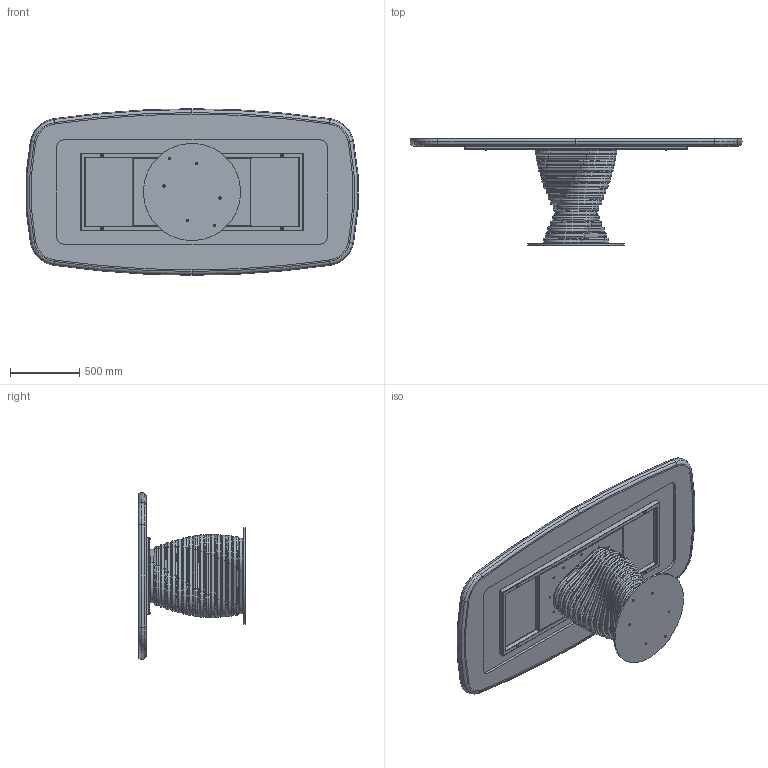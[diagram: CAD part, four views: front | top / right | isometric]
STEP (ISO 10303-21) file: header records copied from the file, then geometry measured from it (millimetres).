
FILE_DESCRIPTION (( 'STEP AP203' ), '1' );
FILE_NAME ('RO22K_Rotolo_240x120_King.STEP', '2024-08-02T07:36:35', ( '' ), ( '' ), 'SwSTEP 2.0', 'SolidWorks 2022', '' );
FILE_SCHEMA (( 'CONFIG_CONTROL_DESIGN' ));
Length unit declared in the file: millimetre
Products named in the file (15): ROB200000-00-PIASTRA BASE_Ø70cm; TTAV01_01-05-TELAIO UNIVERSALE X TAVOLI 180 240cm; ROBX00000SUP-00-Anello rotolo SUPERIORE_Default<A macchina>; RO22K_Rotolo_240x120_King; ASSIEME PIANO+CERAMICA 240X120; rondella M8_8X24; TTAV01-05-TELAIO UNIVERSALE X TAVOLI 180 240cm; ROBX00000-00-ROTOLO BASE 17 ANELLI; TTAV01_02-05-VASSOIO IRRIGIDIMENTO TELAIO UNIVERSALE; COLLO TELAIO UNIVERSALE TTAV01 CON FERRAMENTA_MTG TOP LEGNO-MARMO-KING; ROBX00000INF-00-Anello rotolo INFERIORE_Default<A macchina>; M8xXXmm_M8x55mm; K50-00-PIANO SOLO CERAMICA 236,7x116,7cm sag; W50-01-PIANO KING BORDO 240x120 SAGOMATO LACCATO; ROBX00000MED-00-Anello rotolo MEDIO_Default<A macchina>
Assembly tree (34 placements, depth 4):
  RO22K_Rotolo_240x120_King
    ROB200000-00-PIASTRA BASE_Ø70cm
    ROBX00000-00-ROTOLO BASE 17 ANELLI
      ROBX00000INF-00-Anello rotolo INFERIORE_Default<A macchina>
      ROBX00000MED-00-Anello rotolo MEDIO_Default<A macchina>  x15
      ROBX00000SUP-00-Anello rotolo SUPERIORE_Default<A macchina>
    COLLO TELAIO UNIVERSALE TTAV01 CON FERRAMENTA_MTG TOP LEGNO-MARMO-KING
      TTAV01-05-TELAIO UNIVERSALE X TAVOLI 180 240cm
        TTAV01_02-05-VASSOIO IRRIGIDIMENTO TELAIO UNIVERSALE
        TTAV01_01-05-TELAIO UNIVERSALE X TAVOLI 180 240cm
      rondella M8_8X24  x4
      M8xXXmm_M8x55mm  x4
    ASSIEME PIANO+CERAMICA 240X120
      K50-00-PIANO SOLO CERAMICA 236,7x116,7cm sag
      W50-01-PIANO KING BORDO 240x120 SAGOMATO LACCATO
Bounding box: 2391.93 x 768 x 1200 mm (x, y, z)
Volume: 129421513.1 mm3; surface area: 18662860.3 mm2
Topology: 81 solids, 81 shells, 1317 faces, 3236 edges, 2058 vertices
Faces by surface type: cylinder 517, plane 486, torus 234, cone 72, sphere 8
Entity records: 21922 total; most frequent: CARTESIAN_POINT 4934, DIRECTION 3287, ORIENTED_EDGE 2980, EDGE_CURVE 1490, AXIS2_PLACEMENT_3D 1267, VERTEX_POINT 938, VECTOR 753, LINE 753
